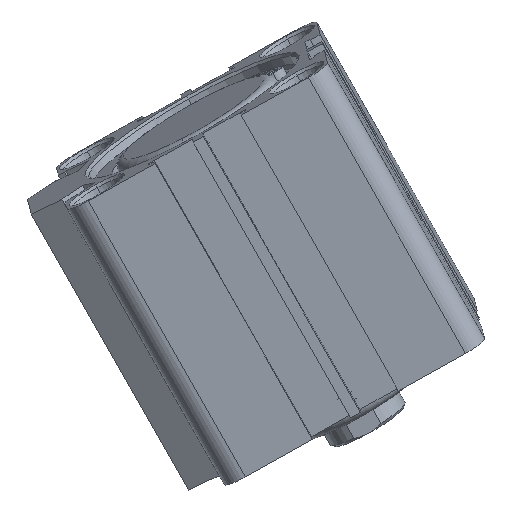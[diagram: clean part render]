
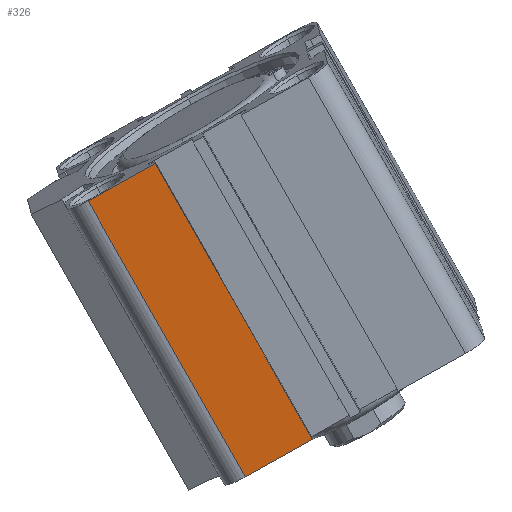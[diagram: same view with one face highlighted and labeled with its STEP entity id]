
A CAD part, left-side view. The second image highlights one B-rep face of the part: STEP entity #326.
In plain terms, the highlighted planar face has unit normal (-0.987, -0.042, -0.158) as drawn and (-1, 0, 0) by its records, which use the part's own axes.
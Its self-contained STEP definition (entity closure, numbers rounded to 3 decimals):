
#326 = ADVANCED_FACE ( 'NONE', ( #15725 ), #13497, .T. ) ;
#791 = DIRECTION ( 'NONE',  ( 0., 0., -1. ) ) ;
#1353 = VECTOR ( 'NONE', #4412, 1000. ) ;
#1418 = CARTESIAN_POINT ( 'NONE',  ( -26., 0., 0. ) ) ;
#1752 = AXIS2_PLACEMENT_3D ( 'NONE', #2037, #3579, #3710 ) ;
#1857 = ORIENTED_EDGE ( 'NONE', *, *, #4183, .F. ) ;
#2037 = CARTESIAN_POINT ( 'NONE',  ( -26., 0., 56. ) ) ;
#2094 = VERTEX_POINT ( 'NONE', #4558 ) ;
#2297 = LINE ( 'NONE', #1418, #9412 ) ;
#2911 = EDGE_CURVE ( 'NONE', #12474, #11859, #8108, .T. ) ;
#3002 = LINE ( 'NONE', #13762, #9330 ) ;
#3498 = EDGE_CURVE ( 'NONE', #2094, #8479, #2297, .T. ) ;
#3579 = DIRECTION ( 'NONE',  ( -1., 0., 0. ) ) ;
#3710 = DIRECTION ( 'NONE',  ( 0., -1., 0. ) ) ;
#3888 = ORIENTED_EDGE ( 'NONE', *, *, #3498, .F. ) ;
#4183 = EDGE_CURVE ( 'NONE', #12474, #2094, #3002, .T. ) ;
#4273 = CARTESIAN_POINT ( 'NONE',  ( -26., 0., 56. ) ) ;
#4412 = DIRECTION ( 'NONE',  ( 0., 1., 0. ) ) ;
#4558 = CARTESIAN_POINT ( 'NONE',  ( -26., 8.6, 0. ) ) ;
#5995 = DIRECTION ( 'NONE',  ( 0., 1., 0. ) ) ;
#6842 = EDGE_CURVE ( 'NONE', #11859, #8479, #9651, .T. ) ;
#7593 = CARTESIAN_POINT ( 'NONE',  ( -26., 8.6, 56. ) ) ;
#8108 = LINE ( 'NONE', #4273, #1353 ) ;
#8479 = VERTEX_POINT ( 'NONE', #8815 ) ;
#8815 = CARTESIAN_POINT ( 'NONE',  ( -26., 22., 0. ) ) ;
#9330 = VECTOR ( 'NONE', #791, 1000. ) ;
#9412 = VECTOR ( 'NONE', #5995, 1000. ) ;
#9529 = ORIENTED_EDGE ( 'NONE', *, *, #2911, .T. ) ;
#9651 = LINE ( 'NONE', #13796, #16064 ) ;
#10349 = CARTESIAN_POINT ( 'NONE',  ( -26., 22., 56. ) ) ;
#11859 = VERTEX_POINT ( 'NONE', #10349 ) ;
#12474 = VERTEX_POINT ( 'NONE', #7593 ) ;
#13497 = PLANE ( 'NONE',  #1752 ) ;
#13762 = CARTESIAN_POINT ( 'NONE',  ( -26., 8.6, 56. ) ) ;
#13796 = CARTESIAN_POINT ( 'NONE',  ( -26., 22., 56. ) ) ;
#15725 = FACE_OUTER_BOUND ( 'NONE', #17707, .T. ) ;
#16064 = VECTOR ( 'NONE', #20003, 1000. ) ;
#17707 = EDGE_LOOP ( 'NONE', ( #3888, #1857, #9529, #17819 ) ) ;
#17819 = ORIENTED_EDGE ( 'NONE', *, *, #6842, .T. ) ;
#20003 = DIRECTION ( 'NONE',  ( 0., 0., -1. ) ) ;
